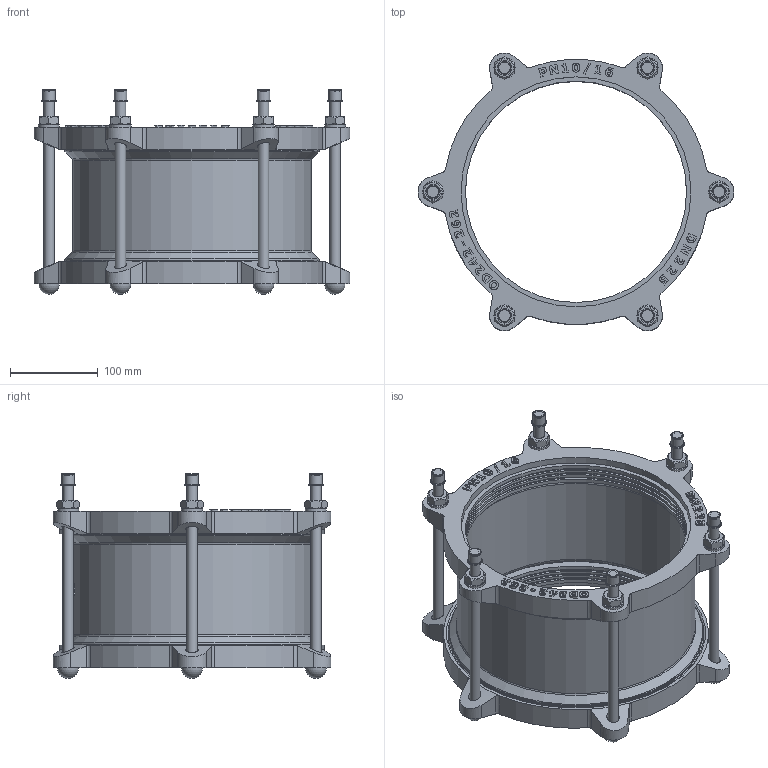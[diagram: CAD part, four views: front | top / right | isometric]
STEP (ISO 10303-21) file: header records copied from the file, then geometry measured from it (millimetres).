
FILE_DESCRIPTION(('STEP AP203'), '1');
FILE_NAME('Cîåäèíèòåëüíàÿ ìóôòà äëÿ æåñòêèõ òðóá', '', ('UNSPECIFIED'), ('UNSPECIFIED'), 'C3D Converter', 'C3D Toolkit', '');
FILE_SCHEMA(('CONFIG_CONTROL_DESIGN'));
Length unit declared in the file: millimetre
Assembly tree (29 placements, depth 2):
  (unnamed)
    (unnamed)
    (unnamed)  x6
    (unnamed)  x6
    (unnamed)  x6
    (unnamed)  x6
    (unnamed)
    (unnamed)
    (unnamed)  x2
Bounding box: 360 x 316.32 x 233.2 mm (x, y, z)
Volume: 2048192.8 mm3; surface area: 695214.8 mm2
Topology: 33 solids, 33 shells, 870 faces, 2163 edges, 1418 vertices
Faces by surface type: plane 339, extrusion 314, cylinder 139, cone 48, torus 24, sphere 6
Full cylindrical faces by diameter (mm): 12 x18, 13 x6, 14 x12, 14.4 x6, 16.8 x6, 17.644 x1, 24 x6, 252 x8, 257 x6, 262 x3, 267 x2, 272 x3, 289.5 x2, 292 x4
Entity records: 33045 total; most frequent: CARTESIAN_POINT 12099, ORIENTED_EDGE 3562, DIRECTION 2375, EDGE_CURVE 1781, VERTEX_POINT 1216, VECTOR 1159, B_SPLINE_CURVE_WITH_KNOTS 1029, EDGE_LOOP 857
